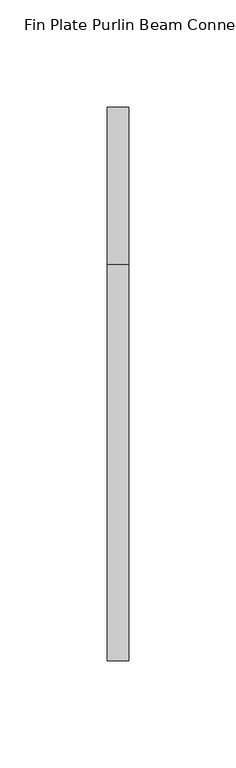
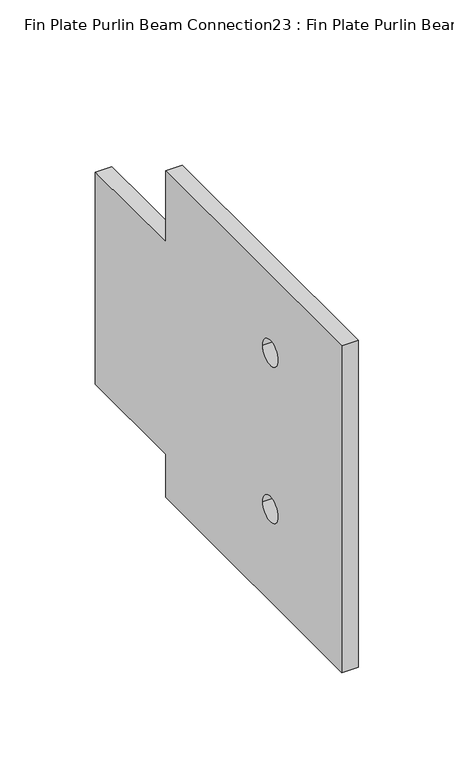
"""IFC4 building model written with IfcOpenShell, lengths in millimetres: proxy geometry, Fin Plate Purlin Beam Connection23 : Fin Plate Purlin Beam Connection."""

from ifc_helpers import new_model, si_unit, point, frame, frame_2d, origin, place, context, project, spatial, polyline, circle_curve, trimmed, segment, composite_curve, outline, extrude, source, transform, mapped, element, save


def fin_plate_purlin_beam_connection23_fin_plate_purlin_beam_92e7c56d(model_context):
    return source(origin(), model_context, "Body", "SweptSolid", [
        extrude(outline(polyline([(15850.823117, 2454.7182916), (15777.223117, 2454.7182916), (15777.223117, 2427.0006295), (15592.623117, 2427.0006295), (15592.623117, 2635.9566779), (15777.223117, 2635.9566779), (15777.223117, 2590.5), (15850.823117, 2590.5), (15850.823117, 2454.7182916)]), holes=[composite_curve([segment(trimmed(circle_curve(frame_2d((15667.623117, 2585.9566779)), 8.0), [point((15675.623117, 2585.9566779))], [point((15659.623117, 2585.9566779))], True, "CARTESIAN"), True, "CONTINUOUS"), segment(trimmed(circle_curve(frame_2d((15667.623117, 2585.9566779)), 8.0), [point((15659.623117, 2585.9566779))], [point((15675.623117, 2585.9566779))], True, "CARTESIAN"), True, "CONTINUOUS")], self_intersect=False), composite_curve([segment(trimmed(circle_curve(frame_2d((15667.623117, 2485.9566779)), 8.0), [point((15675.623117, 2485.9566779))], [point((15659.623117, 2485.9566779))], True, "CARTESIAN"), True, "CONTINUOUS"), segment(trimmed(circle_curve(frame_2d((15667.623117, 2485.9566779)), 8.0), [point((15659.623117, 2485.9566779))], [point((15675.623117, 2485.9566779))], True, "CARTESIAN"), True, "CONTINUOUS")], self_intersect=False)]), frame((-29526.0036256, 0.0, 0.0), z_axis=(1.0, 0.0, 0.0), x_axis=(0.0, 1.0, 0.0)), (0.0, 0.0, 1.0), 10.0),
    ])


if __name__ == "__main__":
    model = new_model("IFC4")
    model_context = context("Model", 3, world=origin())
    ifc_project = project(units=[si_unit("LENGTHUNIT", "METRE", prefix="MILLI")], contexts=[model_context])
    site = spatial("IfcSite", under=ifc_project)
    building = spatial("IfcBuilding", under=site)
    placement = place(None, origin())
    fin_plate_purlin_beam_connection23_fin_plate_purlin_beam_shape = fin_plate_purlin_beam_connection23_fin_plate_purlin_beam_92e7c56d(model_context)
    element("IfcBuildingElementProxy", 1, Name="Fin Plate Purlin Beam Connection23 : Fin Plate Purlin Beam Connection", ObjectType="Fin Plate Purlin Beam Connection23 : Fin Plate Purlin Beam Connection", at=placement, inside=building, context=model_context, shape_type="MappedRepresentation", body=[
        mapped(fin_plate_purlin_beam_connection23_fin_plate_purlin_beam_shape, transform((0.0, 0.0, 0.0), x_axis=(1.0, 0.0, 0.0), y_axis=(0.0, 1.0, 0.0), z_axis=(0.0, 0.0, 1.0))),
    ])
    save(model, "model.ifc")
